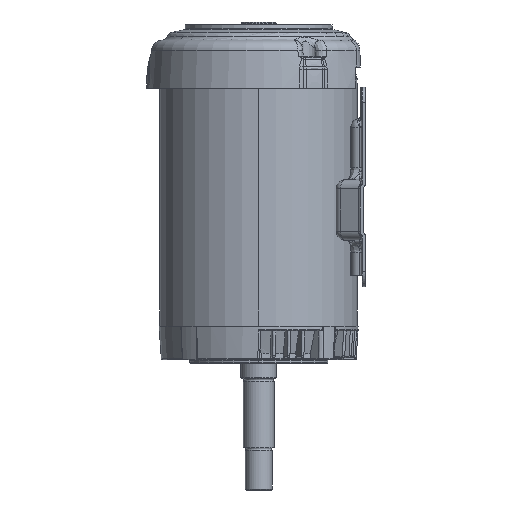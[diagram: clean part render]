
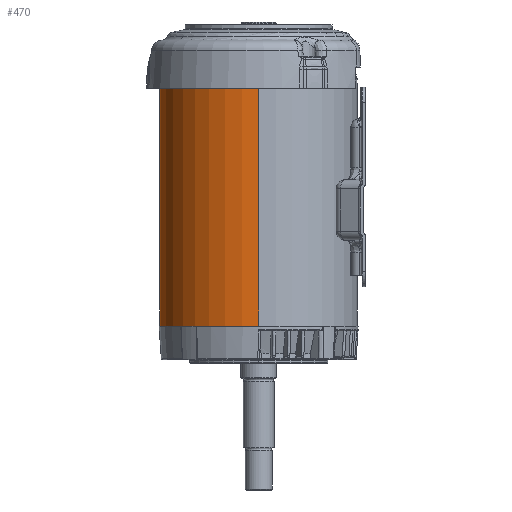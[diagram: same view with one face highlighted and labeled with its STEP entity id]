
A CAD part, left-side view. The second image highlights one B-rep face of the part: STEP entity #470.
In plain terms, the highlighted cylindrical face has radius 81.707 mm (diameter 163.413 mm), a partial arc.
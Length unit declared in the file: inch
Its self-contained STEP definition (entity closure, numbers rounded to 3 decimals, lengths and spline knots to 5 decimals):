
#2=CARTESIAN_POINT('',(0.,0.,-3.875));
#3=DIRECTION('',(0.,0.,1.));
#4=DIRECTION('',(1.,0.,0.));
#5=AXIS2_PLACEMENT_3D('',#2,#3,#4);
#22=CARTESIAN_POINT('',(-3.16715,0.563,-2.2745));
#23=CARTESIAN_POINT('',(-3.1653,0.57341,-2.2745));
#24=CARTESIAN_POINT('',(-3.16173,0.5929,-2.27099));
#25=CARTESIAN_POINT('',(-3.15656,0.61977,-2.25567));
#26=CARTESIAN_POINT('',(-3.1526,0.63952,-2.23198));
#27=CARTESIAN_POINT('',(-3.15047,0.64988,-2.20347));
#28=CARTESIAN_POINT('',(-3.15045,0.64997,-2.17291));
#29=CARTESIAN_POINT('',(-3.15258,0.63961,-2.14422));
#30=CARTESIAN_POINT('',(-3.15648,0.62019,-2.12068));
#31=CARTESIAN_POINT('',(-3.16171,0.59302,-2.10501));
#32=CARTESIAN_POINT('',(-3.16529,0.57346,-2.1015));
#33=CARTESIAN_POINT('',(-3.16715,0.563,-2.1015));
#35=CARTESIAN_POINT('',(-3.16715,0.563,-2.1015));
#36=CARTESIAN_POINT('',(-3.169,0.55261,-2.1015));
#37=CARTESIAN_POINT('',(-3.17235,0.53314,-2.10501));
#38=CARTESIAN_POINT('',(-3.17673,0.50633,-2.12025));
#39=CARTESIAN_POINT('',(-3.1798,0.48655,-2.1439));
#40=CARTESIAN_POINT('',(-3.18137,0.47612,-2.17248));
#41=CARTESIAN_POINT('',(-3.18138,0.47603,-2.20316));
#42=CARTESIAN_POINT('',(-3.17982,0.48646,-2.23191));
#43=CARTESIAN_POINT('',(-3.1768,0.50593,-2.25542));
#44=CARTESIAN_POINT('',(-3.17237,0.53305,-2.27101));
#45=CARTESIAN_POINT('',(-3.169,0.55257,-2.2745));
#46=CARTESIAN_POINT('',(-3.16715,0.563,-2.2745));
#48=CARTESIAN_POINT('',(0.,0.,-1.778));
#49=DIRECTION('',(0.,0.,1.));
#50=DIRECTION('',(-0.996,0.089,0.));
#51=AXIS2_PLACEMENT_3D('',#48,#49,#50);
#53=CARTESIAN_POINT('',(-3.19056,0.41,-1.903));
#54=CARTESIAN_POINT('',(-3.19056,0.41,-1.89351));
#55=CARTESIAN_POINT('',(-3.19084,0.40789,-1.87505));
#56=CARTESIAN_POINT('',(-3.19202,0.3986,-1.84835));
#57=CARTESIAN_POINT('',(-3.19387,0.38353,-1.82437));
#58=CARTESIAN_POINT('',(-3.19622,0.36355,-1.80442));
#59=CARTESIAN_POINT('',(-3.19885,0.33968,-1.78942));
#60=CARTESIAN_POINT('',(-3.20158,0.31296,-1.7801));
#61=CARTESIAN_POINT('',(-3.20331,0.2945,-1.778));
#62=CARTESIAN_POINT('',(-3.20415,0.285,-1.778));
#64=DIRECTION('',(0.,0.,1.));
#65=VECTOR('',#64,0.95);
#66=CARTESIAN_POINT('',(-3.19056,0.41,-2.853));
#67=LINE('',#66,#65);
#68=CARTESIAN_POINT('',(-3.20415,0.285,-2.978));
#69=CARTESIAN_POINT('',(-3.20331,0.29448,-2.978));
#70=CARTESIAN_POINT('',(-3.20158,0.31291,-2.9759));
#71=CARTESIAN_POINT('',(-3.19886,0.33955,-2.96665));
#72=CARTESIAN_POINT('',(-3.19622,0.36349,-2.95163));
#73=CARTESIAN_POINT('',(-3.19388,0.38347,-2.93169));
#74=CARTESIAN_POINT('',(-3.19202,0.39853,-2.9078));
#75=CARTESIAN_POINT('',(-3.19084,0.40789,-2.88101));
#76=CARTESIAN_POINT('',(-3.19056,0.41,-2.86251));
#77=CARTESIAN_POINT('',(-3.19056,0.41,-2.853));
#79=CARTESIAN_POINT('',(0.,0.,-2.978));
#80=DIRECTION('',(0.,0.,1.));
#81=DIRECTION('',(-0.996,0.089,0.));
#82=AXIS2_PLACEMENT_3D('',#79,#80,#81);
#84=DIRECTION('',(0.,0.,1.));
#85=VECTOR('',#84,7.75);
#86=CARTESIAN_POINT('',(3.2168,0.,-3.875));
#87=LINE('',#86,#85);
#201=DIRECTION('',(0.,0.,1.));
#202=VECTOR('',#201,5.653);
#203=CARTESIAN_POINT('',(-3.2168,0.,-1.778));
#204=LINE('',#203,#202);
#205=DIRECTION('',(0.,0.,1.));
#206=VECTOR('',#205,0.897);
#207=CARTESIAN_POINT('',(-3.2168,0.,-3.875));
#208=LINE('',#207,#206);
#342=CARTESIAN_POINT('',(0.,0.,3.875));
#343=DIRECTION('',(0.,0.,1.));
#344=DIRECTION('',(1.,0.,0.));
#345=AXIS2_PLACEMENT_3D('',#342,#343,#344);
#362=CARTESIAN_POINT('',(3.2168,0.,-3.875));
#363=CARTESIAN_POINT('',(-3.2168,0.,-3.875));
#364=VERTEX_POINT('',#362);
#365=VERTEX_POINT('',#363);
#370=CARTESIAN_POINT('',(3.2168,0.,3.875));
#371=CARTESIAN_POINT('',(-3.2168,0.,3.875));
#372=VERTEX_POINT('',#370);
#373=VERTEX_POINT('',#371);
#378=VERTEX_POINT('',#22);
#379=VERTEX_POINT('',#33);
#380=CARTESIAN_POINT('',(-3.20415,0.285,-1.778));
#381=CARTESIAN_POINT('',(-3.2168,0.,-1.778));
#382=VERTEX_POINT('',#380);
#383=VERTEX_POINT('',#381);
#384=CARTESIAN_POINT('',(-3.20415,0.285,-2.978));
#385=CARTESIAN_POINT('',(-3.2168,0.,-2.978));
#386=VERTEX_POINT('',#384);
#387=VERTEX_POINT('',#385);
#388=VERTEX_POINT('',#77);
#389=CARTESIAN_POINT('',(-3.19056,0.41,-1.903));
#390=VERTEX_POINT('',#389);
#438=CARTESIAN_POINT('',(0.,0.,-3.875));
#439=DIRECTION('',(0.,0.,1.));
#440=DIRECTION('',(1.,0.,0.));
#441=AXIS2_PLACEMENT_3D('',#438,#439,#440);
#442=CYLINDRICAL_SURFACE('',#441,3.2168);
#444=ORIENTED_EDGE('',*,*,#443,.F.);
#446=ORIENTED_EDGE('',*,*,#445,.F.);
#448=ORIENTED_EDGE('',*,*,#447,.F.);
#450=ORIENTED_EDGE('',*,*,#449,.F.);
#452=ORIENTED_EDGE('',*,*,#451,.T.);
#454=ORIENTED_EDGE('',*,*,#453,.F.);
#455=ORIENTED_EDGE('',*,*,#425,.F.);
#457=ORIENTED_EDGE('',*,*,#456,.T.);
#459=ORIENTED_EDGE('',*,*,#458,.T.);
#461=ORIENTED_EDGE('',*,*,#460,.F.);
#462=EDGE_LOOP('',(#444,#446,#448,#450,#452,#454,#455,#457,#459,#461));
#463=FACE_OUTER_BOUND('',#462,.F.);
#465=ORIENTED_EDGE('',*,*,#464,.F.);
#467=ORIENTED_EDGE('',*,*,#466,.F.);
#468=EDGE_LOOP('',(#465,#467));
#469=FACE_BOUND('',#468,.F.);
#470=ADVANCED_FACE('',(#463,#469),#442,.T.);
#6=CIRCLE('',#5,3.2168);
#34=B_SPLINE_CURVE_WITH_KNOTS('',3,(#22,#23,#24,#25,#26,#27,#28,#29,#30,#31,#32,
#33),.UNSPECIFIED.,.F.,.F.,(4,1,1,1,1,1,1,1,1,4),(0.,0.11111,
0.22222,0.33333,0.44444,0.55556,
0.66667,0.77778,0.88889,1.),.UNSPECIFIED.);
#47=B_SPLINE_CURVE_WITH_KNOTS('',3,(#35,#36,#37,#38,#39,#40,#41,#42,#43,#44,#45,
#46),.UNSPECIFIED.,.F.,.F.,(4,1,1,1,1,1,1,1,1,4),(0.,0.11111,
0.22222,0.33333,0.44444,0.55556,
0.66667,0.77778,0.88889,1.),.UNSPECIFIED.);
#52=CIRCLE('',#51,3.2168);
#63=B_SPLINE_CURVE_WITH_KNOTS('',3,(#53,#54,#55,#56,#57,#58,#59,#60,#61,#62),
.UNSPECIFIED.,.F.,.F.,(4,1,1,1,1,1,1,4),(0.,0.14286,
0.28571,0.42857,0.57143,0.71429,
0.85714,1.),.UNSPECIFIED.);
#78=B_SPLINE_CURVE_WITH_KNOTS('',3,(#68,#69,#70,#71,#72,#73,#74,#75,#76,#77),
.UNSPECIFIED.,.F.,.F.,(4,1,1,1,1,1,1,4),(0.,0.14286,
0.28571,0.42857,0.57143,0.71429,
0.85714,1.),.UNSPECIFIED.);
#83=CIRCLE('',#82,3.2168);
#346=CIRCLE('',#345,3.2168);
#425=EDGE_CURVE('',#364,#365,#6,.T.);
#443=EDGE_CURVE('',#382,#383,#52,.T.);
#445=EDGE_CURVE('',#390,#382,#63,.T.);
#447=EDGE_CURVE('',#388,#390,#67,.T.);
#449=EDGE_CURVE('',#386,#388,#78,.T.);
#451=EDGE_CURVE('',#386,#387,#83,.T.);
#453=EDGE_CURVE('',#365,#387,#208,.T.);
#456=EDGE_CURVE('',#364,#372,#87,.T.);
#458=EDGE_CURVE('',#372,#373,#346,.T.);
#460=EDGE_CURVE('',#383,#373,#204,.T.);
#464=EDGE_CURVE('',#378,#379,#34,.T.);
#466=EDGE_CURVE('',#379,#378,#47,.T.);
